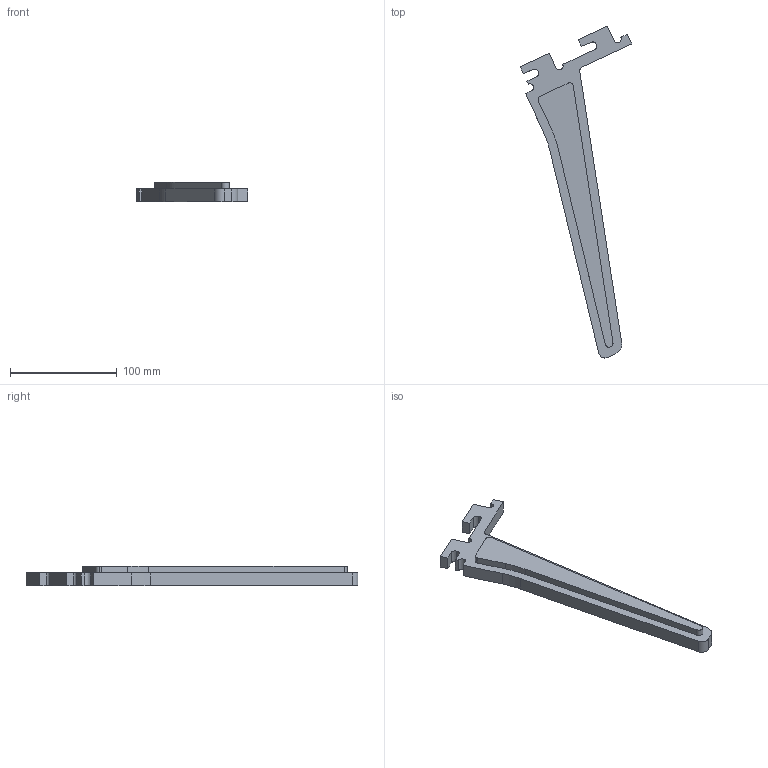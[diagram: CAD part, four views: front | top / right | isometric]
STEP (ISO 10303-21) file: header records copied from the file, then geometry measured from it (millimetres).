
FILE_DESCRIPTION (( 'STEP AP214' ), '1' );
FILE_NAME ('pied-de-tarouret-partie-male.STEP', '2018-03-29T09:42:31', ( '' ), ( '' ), 'SwSTEP 2.0', 'SolidWorks 2014', '' );
FILE_SCHEMA (( 'AUTOMOTIVE_DESIGN' ));
Length unit declared in the file: millimetre
Products named in the file (1): pied-de-tarouret-partie-male
Bounding box: 104.59 x 310.53 x 18 mm (x, y, z)
Volume: 154959.3 mm3; surface area: 34721.1 mm2
Topology: 1 solids, 1 shells, 45 faces, 126 edges, 84 vertices
Faces by surface type: plane 28, cylinder 17
Entity records: 1488 total; most frequent: CARTESIAN_POINT 256, DIRECTION 252, ORIENTED_EDGE 252, EDGE_CURVE 126, VECTOR 92, LINE 92, VERTEX_POINT 84, AXIS2_PLACEMENT_3D 80
